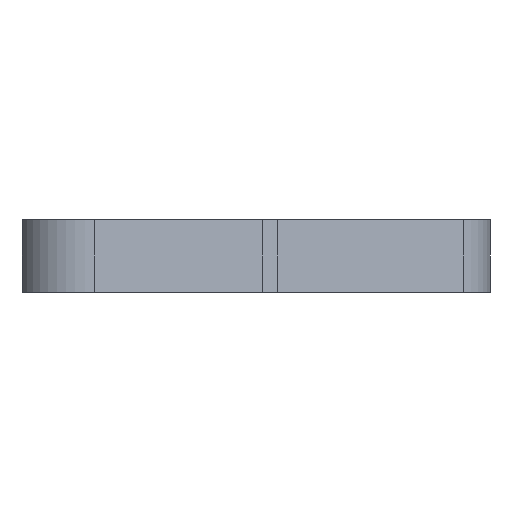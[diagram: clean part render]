
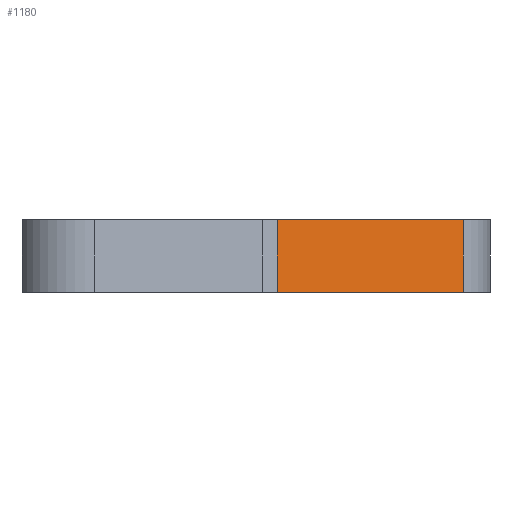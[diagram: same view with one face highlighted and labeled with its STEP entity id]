
A CAD part, left-side view. The second image highlights one B-rep face of the part: STEP entity #1180.
In plain terms, the highlighted planar face has unit normal (-0.832, -0.554, 0).
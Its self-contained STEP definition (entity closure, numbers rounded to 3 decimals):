
#53=PLANE('',#1303);
#101=FACE_OUTER_BOUND('',#160,.T.);
#160=EDGE_LOOP('',(#907,#908,#909,#910));
#267=LINE('',#1925,#366);
#268=LINE('',#1928,#367);
#269=LINE('',#1930,#368);
#270=LINE('',#1931,#369);
#366=VECTOR('',#1576,10.);
#367=VECTOR('',#1579,10.);
#368=VECTOR('',#1580,10.);
#369=VECTOR('',#1581,10.);
#552=VERTEX_POINT('',#1921);
#553=VERTEX_POINT('',#1923);
#554=VERTEX_POINT('',#1927);
#555=VERTEX_POINT('',#1929);
#701=EDGE_CURVE('',#552,#553,#267,.T.);
#702=EDGE_CURVE('',#554,#552,#268,.T.);
#703=EDGE_CURVE('',#555,#553,#269,.T.);
#704=EDGE_CURVE('',#554,#555,#270,.T.);
#907=ORIENTED_EDGE('',*,*,#702,.T.);
#908=ORIENTED_EDGE('',*,*,#701,.T.);
#909=ORIENTED_EDGE('',*,*,#703,.F.);
#910=ORIENTED_EDGE('',*,*,#704,.F.);
#1180=ADVANCED_FACE('',(#101),#53,.T.);
#1303=AXIS2_PLACEMENT_3D('',#1926,#1577,#1578);
#1576=DIRECTION('',(0.,0.,1.));
#1577=DIRECTION('center_axis',(-0.832,-0.554,0.));
#1578=DIRECTION('ref_axis',(0.554,-0.832,0.));
#1579=DIRECTION('',(0.554,-0.832,0.));
#1580=DIRECTION('',(0.554,-0.832,0.));
#1581=DIRECTION('',(0.,0.,1.));
#1921=CARTESIAN_POINT('',(31.27,2.717,0.));
#1923=CARTESIAN_POINT('',(31.27,2.717,12.));
#1925=CARTESIAN_POINT('',(31.27,2.717,0.));
#1926=CARTESIAN_POINT('Origin',(10.614,33.725,0.));
#1927=CARTESIAN_POINT('',(10.614,33.725,0.));
#1928=CARTESIAN_POINT('',(10.614,33.725,0.));
#1929=CARTESIAN_POINT('',(10.614,33.725,12.));
#1930=CARTESIAN_POINT('',(10.614,33.725,12.));
#1931=CARTESIAN_POINT('',(10.614,33.725,0.));
